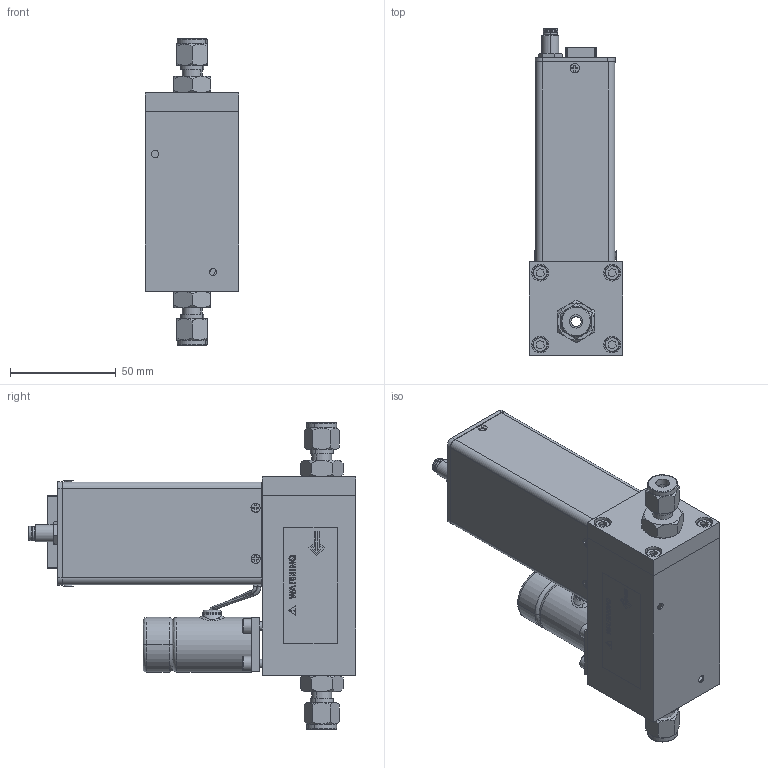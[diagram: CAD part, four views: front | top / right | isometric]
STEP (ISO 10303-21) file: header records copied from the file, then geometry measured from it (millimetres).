
FILE_DESCRIPTION (( 'STEP AP203' ), '1' );
FILE_NAME ('SLA5851-8-1B-1-A-REVB.STEP', '2021-05-10T19:40:02', ( '' ), ( '' ), 'SwSTEP 2.0', 'SolidWorks 2020', '' );
FILE_SCHEMA (( 'CONFIG_CONTROL_DESIGN' ));
Length unit declared in the file: inch
Products named in the file (1): SLA5851-8-1B-1-A-REVB
Bounding box: 44.3 x 154.44 x 144.86 mm (x, y, z)
Volume: 72976.1 mm3; surface area: 121784.4 mm2
Topology: 59 solids, 59 shells, 2328 faces, 6040 edges, 3902 vertices
Faces by surface type: plane 1457, cylinder 554, bspline 163, cone 154
Entity records: 76527 total; most frequent: CARTESIAN_POINT 19706, ORIENTED_EDGE 12044, DIRECTION 11316, EDGE_CURVE 6022, VECTOR 4262, LINE 4262, VERTEX_POINT 3902, AXIS2_PLACEMENT_3D 3527
